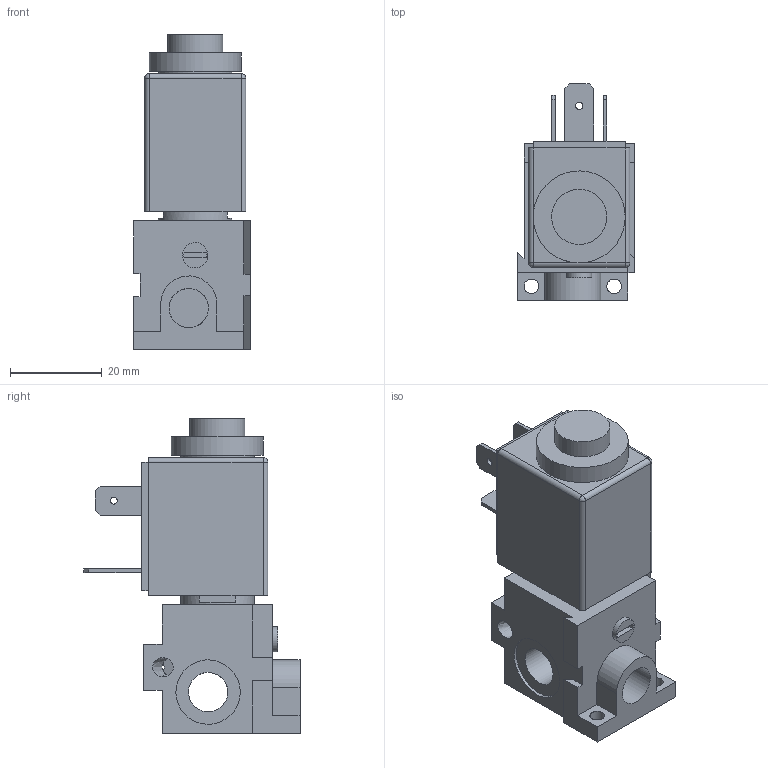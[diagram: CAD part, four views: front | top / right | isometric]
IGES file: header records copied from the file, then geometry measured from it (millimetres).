
Global section: file name: 305_M##; native system: Autodesk Inventor 2014; preprocessor: unknown; author: A. Manieri; date: 20161004.154134; units: millimetre
Bounding box: 25.4 x 47 x 68.5 mm (x, y, z)
Volume: 33897.3 mm3; surface area: 13529.3 mm2
Topology: 2 solids, 2 shells, 125 faces, 337 edges, 231 vertices
Faces by surface type: bspline 125
